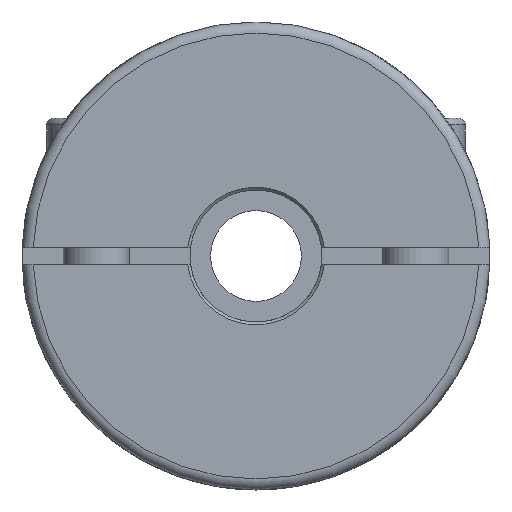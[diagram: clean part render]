
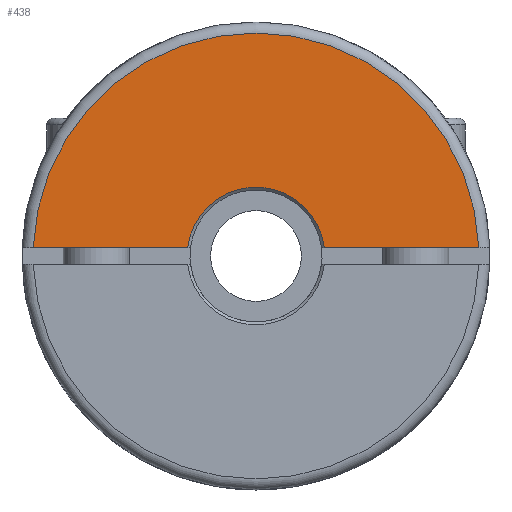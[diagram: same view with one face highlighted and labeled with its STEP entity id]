
A CAD part, left-side view. The second image highlights one B-rep face of the part: STEP entity #438.
In plain terms, the highlighted planar face has unit normal (-1, 0, 0).
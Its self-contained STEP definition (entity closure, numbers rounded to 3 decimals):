
#438 = ADVANCED_FACE( '', ( #1167 ), #1168, .T. );
#1167 = FACE_OUTER_BOUND( '', #2278, .T. );
#1168 = PLANE( '', #2279 );
#2278 = EDGE_LOOP( '', ( #3592, #3593, #3594, #3595 ) );
#2279 = AXIS2_PLACEMENT_3D( '', #3596, #3597, #3598 );
#3592 = ORIENTED_EDGE( '', *, *, #6354, .T. );
#3593 = ORIENTED_EDGE( '', *, *, #6349, .T. );
#3594 = ORIENTED_EDGE( '', *, *, #6355, .T. );
#3595 = ORIENTED_EDGE( '', *, *, #6356, .T. );
#3596 = CARTESIAN_POINT( '', ( 0., 0., 9. ) );
#3597 = DIRECTION( '', ( -1., 0., 0. ) );
#3598 = DIRECTION( '', ( 0., 0., 1. ) );
#6349 = EDGE_CURVE( '', #7622, #7626, #7628, .F. );
#6354 = EDGE_CURVE( '', #7635, #7622, #7636, .T. );
#6355 = EDGE_CURVE( '', #7626, #7637, #7638, .T. );
#6356 = EDGE_CURVE( '', #7637, #7635, #7639, .T. );
#7622 = VERTEX_POINT( '', #9662 );
#7626 = VERTEX_POINT( '', #9669 );
#7628 = CIRCLE( '', #9674, 12.5 );
#7635 = VERTEX_POINT( '', #9681 );
#7636 = LINE( '', #9682, #9683 );
#7637 = VERTEX_POINT( '', #9684 );
#7638 = LINE( '', #9685, #9686 );
#7639 = CIRCLE( '', #9687, 40.5 );
#9662 = CARTESIAN_POINT( '', ( 0., 12.41, 1.5 ) );
#9669 = CARTESIAN_POINT( '', ( 0., -12.41, 1.5 ) );
#9674 = AXIS2_PLACEMENT_3D( '', #12899, #12900, #12901 );
#9681 = CARTESIAN_POINT( '', ( 0., 40.472, 1.5 ) );
#9682 = CARTESIAN_POINT( '', ( 0., 0., 1.5 ) );
#9683 = VECTOR( '', #12908, 1000. );
#9684 = CARTESIAN_POINT( '', ( 0., -40.472, 1.5 ) );
#9685 = CARTESIAN_POINT( '', ( 0., 0., 1.5 ) );
#9686 = VECTOR( '', #12909, 1000. );
#9687 = AXIS2_PLACEMENT_3D( '', #12910, #12911, #12912 );
#12899 = CARTESIAN_POINT( '', ( 0., 0., 0. ) );
#12900 = DIRECTION( '', ( -1., 0., 0. ) );
#12901 = DIRECTION( '', ( 0., 0., 1. ) );
#12908 = DIRECTION( '', ( 0., -1., 0. ) );
#12909 = DIRECTION( '', ( 0., -1., 0. ) );
#12910 = CARTESIAN_POINT( '', ( 0., 0., 0. ) );
#12911 = DIRECTION( '', ( -1., 0., 0. ) );
#12912 = DIRECTION( '', ( 0., 0., 1. ) );
